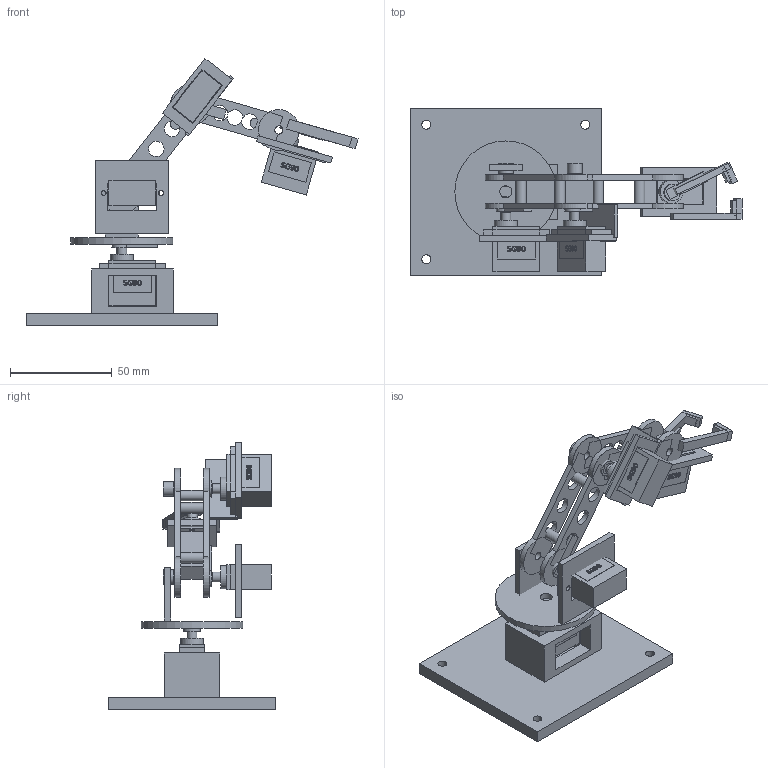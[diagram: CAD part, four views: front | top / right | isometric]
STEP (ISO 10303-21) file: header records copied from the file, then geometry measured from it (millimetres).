
FILE_DESCRIPTION(('Open CASCADE Model'),'2;1');
FILE_NAME('Open CASCADE Shape Model','2026-10-04T12:29:05',('Author'),( 'Open CASCADE'),'Open CASCADE STEP processor 7.8','Open CASCADE 7.8' ,'Unknown');
FILE_SCHEMA(('AUTOMOTIVE_DESIGN { 1 0 10303 214 1 1 1 1 }'));
Length unit declared in the file: millimetre
Products named in the file (39): SG90 compact robot arm; base; yaw-servo-cradle; S1-base-SG90; turntable; shoulder-mount; shoulder-idler-post; S2-shoulder-SG90; upper-cheek--7; upper-cheek-7; upper-spacer-12; upper-spacer-43; upper-idler; fore-cheek--7; fore-cheek-7; fore-spacer-12; fore-spacer-33; fore-idler; elbow-cradle; elbow-mount-bridge; S3-elbow-SG90; upper-supplied-horn; fore-supplied-horn; S4-gripper-SG90; gripper-cradle; fixed-jaw; moving-jaw; gripper-horn; yaw-horn; fixed-pad; moving-pad; S1-base-SG90-label; S1-base-SG90-label-text; S2-shoulder-SG90-label; S2-shoulder-SG90-label-text; S3-elbow-SG90-label; S3-elbow-SG90-label-text; S4-gripper-SG90-label; S4-gripper-SG90-label-text
Assembly tree (38 placements, depth 2):
  SG90 compact robot arm
    base
    yaw-servo-cradle
    S1-base-SG90
    turntable
    shoulder-mount
    shoulder-idler-post
    S2-shoulder-SG90
    upper-cheek--7
    upper-cheek-7
    upper-spacer-12
    upper-spacer-43
    upper-idler
    fore-cheek--7
    fore-cheek-7
    fore-spacer-12
    fore-spacer-33
    fore-idler
    elbow-cradle
    elbow-mount-bridge
    S3-elbow-SG90
    upper-supplied-horn
    fore-supplied-horn
    S4-gripper-SG90
    gripper-cradle
    fixed-jaw
    moving-jaw
    gripper-horn
    yaw-horn
    fixed-pad
    moving-pad
    S1-base-SG90-label
    S1-base-SG90-label-text
    S2-shoulder-SG90-label
    S2-shoulder-SG90-label-text
    S3-elbow-SG90-label
    S3-elbow-SG90-label-text
    S4-gripper-SG90-label
    S4-gripper-SG90-label-text
Bounding box: 162.92 x 82 x 131.07 mm (x, y, z)
Volume: 115440.2 mm3; surface area: 62628.7 mm2
Topology: 50 solids, 50 shells, 789 faces, 1980 edges, 1282 vertices
Faces by surface type: plane 399, extrusion 320, cylinder 70
Full cylindrical faces by diameter (mm): 2.2 x8, 2.4 x2, 4 x8, 4.4 x4, 4.8 x4, 5.2 x4, 6 x1, 7.2 x2, 7.6 x6, 11.4 x4, 50 x1
Entity records: 51000 total; most frequent: CARTESIAN_POINT 11886, DIRECTION 6102, VECTOR 4516, LINE 4196, ORIENTED_EDGE 3960, PCURVE 3960, DEFINITIONAL_REPRESENTATION 3960, EDGE_CURVE 1980
